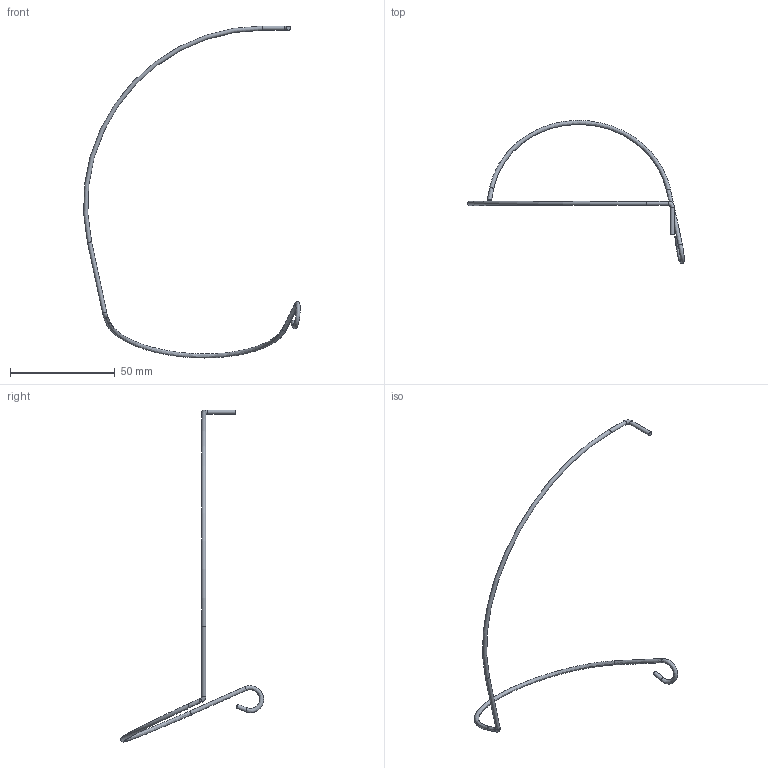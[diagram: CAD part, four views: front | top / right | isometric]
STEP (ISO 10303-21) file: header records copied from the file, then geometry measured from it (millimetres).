
FILE_DESCRIPTION(/* description */ (''),/* implementation_level */ '2;1');
FILE_NAME(/* name */ '',/* time_stamp */ '2025-09-05T17:33:24+03:00',/* author */ ('Artem Sannikov'),/* organization */ (''),/* preprocessor_version */ 'ST-DEVELOPER v20',/* originating_system */ 'Autodesk Inventor 2025',/* authorisation */ '');
FILE_SCHEMA (('AUTOMOTIVE_DESIGN { 1 0 10303 214 3 1 1 }'));
Length unit declared in the file: millimetre
Products named in the file (1): Гнутая деталь
Bounding box: 103.44 x 68.37 x 158.5 mm (x, y, z)
Volume: 1235.8 mm3; surface area: 2489.6 mm2
Topology: 1 solids, 1 shells, 14 faces, 35 edges, 23 vertices
Faces by surface type: bspline 5, cylinder 4, torus 3, plane 2
Full cylindrical faces by diameter (mm): 2 x4
Entity records: 638 total; most frequent: CARTESIAN_POINT 232, DIRECTION 81, ORIENTED_EDGE 70, AXIS2_PLACEMENT_3D 38, EDGE_CURVE 35, CIRCLE 24, VERTEX_POINT 23, STYLED_ITEM 15
